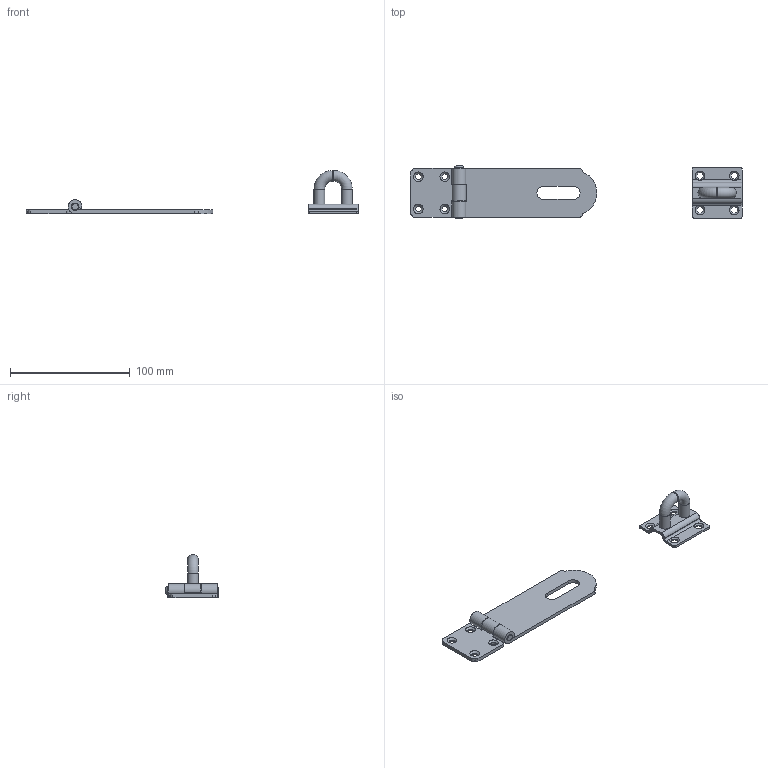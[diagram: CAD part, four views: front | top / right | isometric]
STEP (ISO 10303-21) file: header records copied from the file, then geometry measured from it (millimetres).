
FILE_DESCRIPTION(/* description */ (''),/* implementation_level */ '2;1');
FILE_NAME(/* name */ '\\NAS\db20\GS1-8\DR_GS1-8.stp',/* time_stamp */ '2017-08-31T10:19:32+09:00',/* author */ ('user'),/* organization */ (''),/* preprocessor_version */ 'ST-DEVELOPER v15.6',/* originating_system */ 'Autodesk Inventor 2015',/* authorisation */ '');
FILE_SCHEMA (('AUTOMOTIVE_DESIGN { 1 0 10303 214 3 1 1 }'));
Length unit declared in the file: millimetre
Products named in the file (5): DR_GS1-8-P1; DR_GS1-8-P2; DR_GS1-8-PIN; DR_GS1-8-P3; DR_GS1-8
Bounding box: 277.17 x 43.5 x 35.98 mm (x, y, z)
Volume: 27887.1 mm3; surface area: 21690 mm2
Topology: 4 solids, 4 shells, 120 faces, 290 edges, 178 vertices
Faces by surface type: plane 61, cylinder 47, cone 8, torus 4
Full cylindrical faces by diameter (mm): 4.8 x4, 5.5 x5, 6 x1, 7.6 x1, 9 x5
Entity records: 3387 total; most frequent: DIRECTION 616, CARTESIAN_POINT 545, ORIENTED_EDGE 500, EDGE_CURVE 250, AXIS2_PLACEMENT_3D 237, EDGE_LOOP 168, VERTEX_POINT 166, LINE 142
